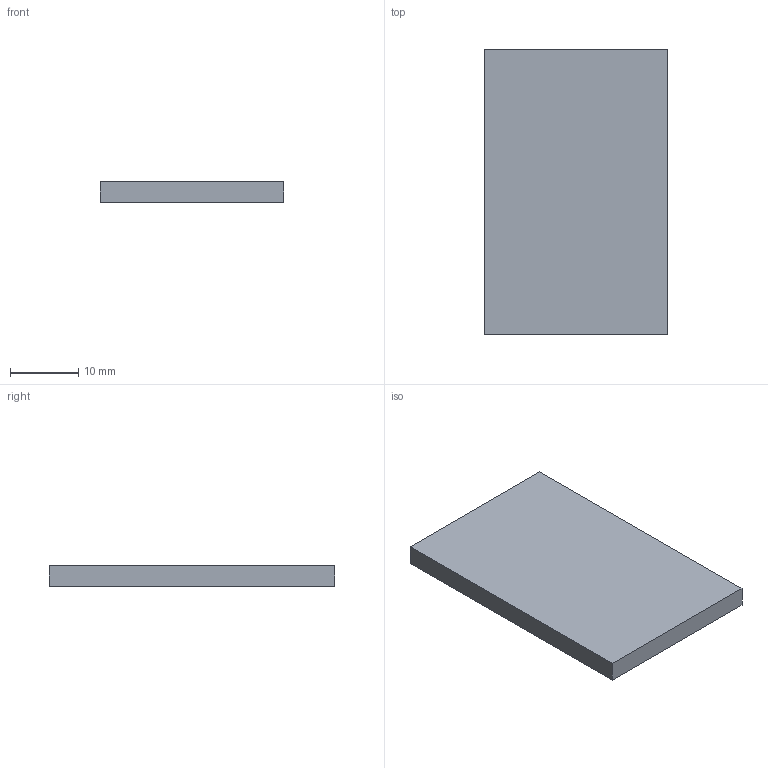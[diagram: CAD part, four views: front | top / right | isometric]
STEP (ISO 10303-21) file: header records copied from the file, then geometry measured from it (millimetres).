
FILE_DESCRIPTION(('Open CASCADE Model'),'2;1');
FILE_NAME('Open CASCADE Shape Model','2026-11-24T19:57:39',('Author'),( 'Open CASCADE'),'Open CASCADE STEP processor 7.8','Open CASCADE 7.8' ,'Unknown');
FILE_SCHEMA(('AUTOMOTIVE_DESIGN { 1 0 10303 214 1 1 1 1 }'));
Length unit declared in the file: millimetre
Products named in the file (1): Open CASCADE STEP translator 7.8 45
Bounding box: 27 x 42 x 3 mm (x, y, z)
Volume: 3402 mm3; surface area: 2682 mm2
Topology: 1 solids, 1 shells, 6 faces, 12 edges, 8 vertices
Faces by surface type: plane 6
Entity records: 322 total; most frequent: CARTESIAN_POINT 51, DIRECTION 50, LINE 36, VECTOR 36, ORIENTED_EDGE 24, PCURVE 24, DEFINITIONAL_REPRESENTATION 24, EDGE_CURVE 12
